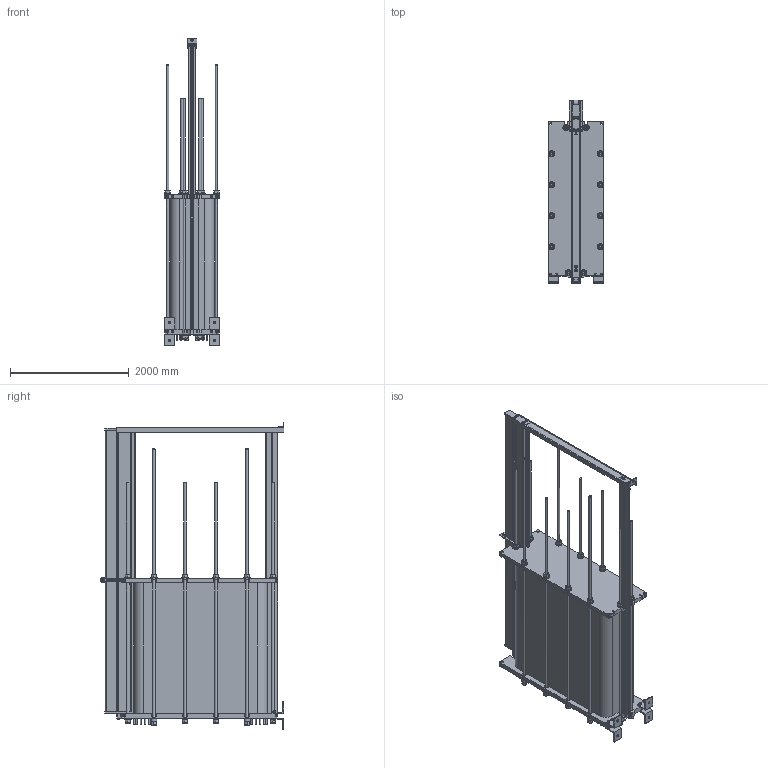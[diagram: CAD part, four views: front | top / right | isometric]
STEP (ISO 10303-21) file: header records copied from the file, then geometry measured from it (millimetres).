
FILE_DESCRIPTION((''),'2;1');
FILE_NAME('C:\temp\MX25_FG_LC4800_7_02_Rev0.stp','2009-09-27T07:04:54',('CNSHFLU'),(''),'Autodesk Inventor 2008','Autodesk Inventor 2008','');
FILE_SCHEMA(('AUTOMOTIVE_DESIGN { 1 2 10303 214 0 1 1 1 }'));
Length unit declared in the file: millimetre
Products named in the file (1): MX25
Bounding box: 925 x 3093.5 x 5185.5 mm (x, y, z)
Volume: 3767424962.1 mm3; surface area: 51883786.3 mm2
Topology: 1 solids, 17 shells, 2848 faces, 6761 edges, 4217 vertices
Faces by surface type: plane 1397, cone 728, cylinder 636, bspline 87
Full cylindrical faces by diameter (mm): 9.45 x4, 12 x12, 13 x10, 14 x2, 18 x4, 20 x63, 21 x13, 22 x5, 24 x20, 25 x8, 26 x4, 30 x2, 34.295 x4, 37 x10, 39 x24, 40 x5, 44 x8, 53 x24, 63 x12, 90 x9, 96 x4, 105 x12, 229 x4, 230 x4
Entity records: 79191 total; most frequent: CARTESIAN_POINT 17054, DIRECTION 12826, ORIENTED_EDGE 12636, EDGE_CURVE 6318, AXIS2_PLACEMENT_3D 4994, VERTEX_POINT 4166, EDGE_LOOP 3590, FACE_OUTER_BOUND 2848
